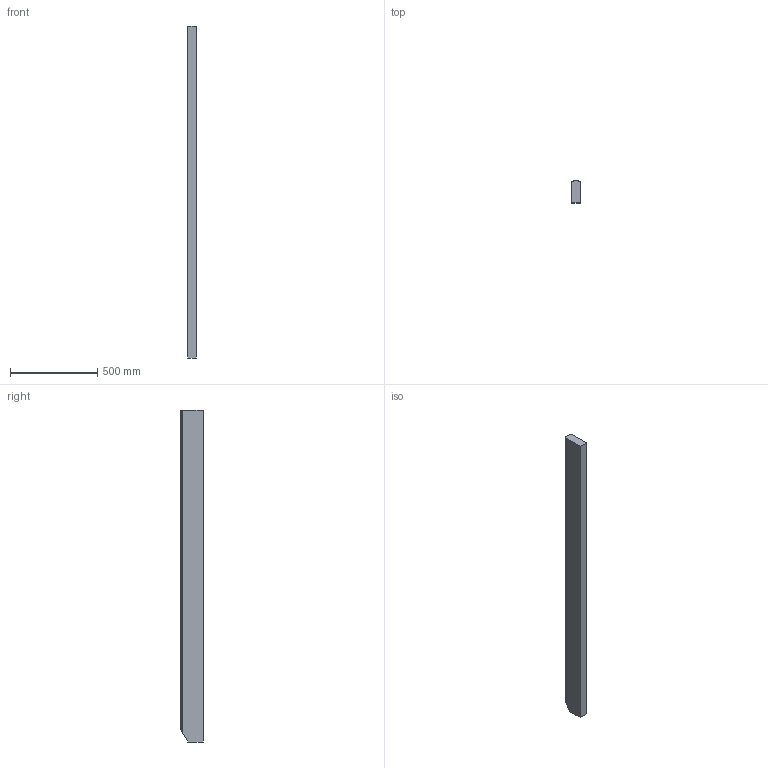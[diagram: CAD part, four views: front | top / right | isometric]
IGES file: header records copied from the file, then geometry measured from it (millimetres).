
Start section: SolidWorks IGES file using analytic representation for surfaces
Global section: file name: I:\BOS\Users\RMDouglas\APTA Standard\StraightSides2inHead\StraightSides2inHead.IGS; native system: SolidWorks 2021; preprocessor: SolidWorks 2021; author: rmdouglas; date: 240321.170358; units: inch
Bounding box: 50.8 x 126.46 x 1905 mm (x, y, z)
Surface area: 662253.1 mm2 (no closed solid volume)
Topology: 0 solids, 0 shells, 14 faces, 135 edges, 135 vertices
Faces by surface type: revolution 8, bspline 6
